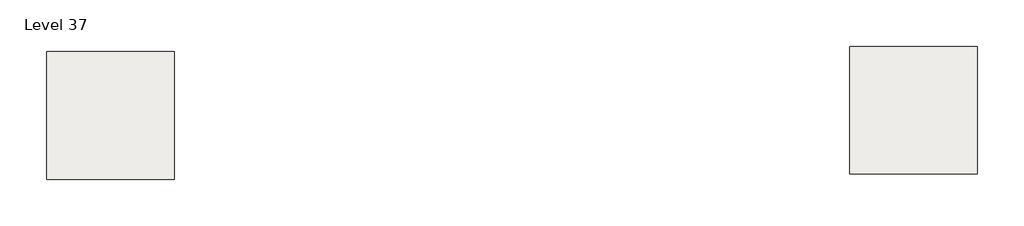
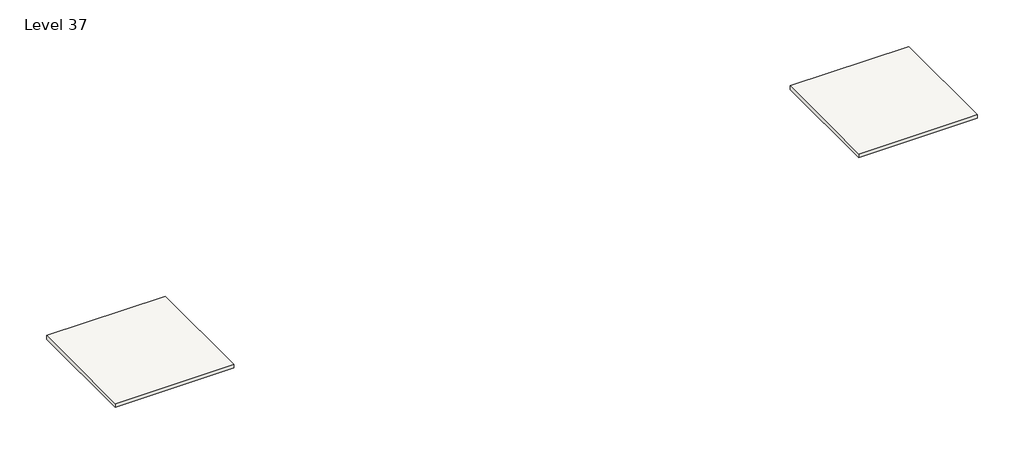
# One storey: 2 slabs.
"""IFC4 building model written with IfcOpenShell, lengths in millimetres."""

from ifc_helpers import new_model, si_unit, frame, origin, place, context, project, spatial, polyline, outline, extrude, element, save

model = new_model("IFC4")

# Units and contexts
model_context = context("Model", 3, world=origin())
ifc_project = project(units=[si_unit("LENGTHUNIT", "METRE", prefix="MILLI")], contexts=[model_context])

# Site, building, storey
site = spatial("IfcSite", under=ifc_project)
building = spatial("IfcBuilding", under=site)
storey = spatial("IfcBuildingStorey", under=building, Name="Level 37", Elevation=109728.0)

# Slabs
placement = place(None, origin())
element("IfcSlab", 1, ObjectType="Generic - 12\"", at=placement, inside=storey, context=model_context, shape_type="SweptSolid", body=[
    extrude(outline(polyline([(-8641.8488996, 6449.9495511), (-8641.8488996, -2694.0504489), (-17785.8488996, -2694.0504489), (-17785.8488996, 6449.9495511), (-8641.8488996, 6449.9495511)])), frame((0.0, 0.0, 109423.2), z_axis=(0.0, 0.0, 1.0), x_axis=(1.0, 0.0, 0.0)), (0.0, 0.0, 1.0), 304.8),
])
element("IfcSlab", 2, ObjectType="Generic - 12\"", at=placement, inside=storey, context=model_context, shape_type="SweptSolid", body=[
    extrude(outline(polyline([(48791.8576677, 6827.0904402), (48791.8576677, -2316.9095598), (39647.8576677, -2316.9095598), (39647.8576677, 6827.0904402), (48791.8576677, 6827.0904402)])), frame((0.0, 0.0, 109423.2), z_axis=(0.0, 0.0, 1.0), x_axis=(1.0, 0.0, 0.0)), (0.0, 0.0, 1.0), 304.8),
])

save(model, "model.ifc")
